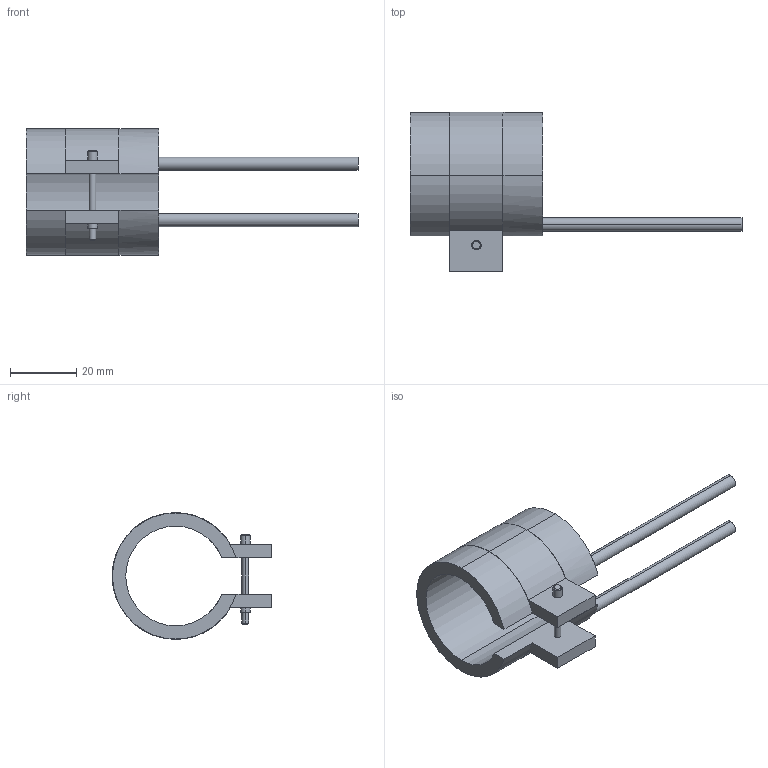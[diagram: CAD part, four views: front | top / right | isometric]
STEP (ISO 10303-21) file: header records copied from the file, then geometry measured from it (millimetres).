
FILE_DESCRIPTION(('CATIA V5 STEP Exchange'),'2;1');
FILE_NAME('C:\Users\Utente\Desktop\IO LAVORO\3D X SITO CF\X SITO\PLASTICA\RF2\14030040.stp','2021-03-31T11:39:29+00:00',('none'),('none'),'CATIA Version 5 Release 20 GA (IN-10)','CATIA V5 STEP AP203','none');
FILE_SCHEMA(('CONFIG_CONTROL_DESIGN'));
Length unit declared in the file: millimetre
Products named in the file (1): 14030040
Bounding box: 100 x 48.1 x 38.2 mm (x, y, z)
Volume: 18522.2 mm3; surface area: 11329.5 mm2
Topology: 1 solids, 1 shells, 45 faces, 116 edges, 76 vertices
Faces by surface type: cylinder 24, plane 17, cone 4
Entity records: 1412 total; most frequent: CARTESIAN_POINT 288, ORIENTED_EDGE 232, DIRECTION 195, EDGE_CURVE 116, AXIS2_PLACEMENT_3D 103, VERTEX_POINT 76, CIRCLE 61, VECTOR 52
